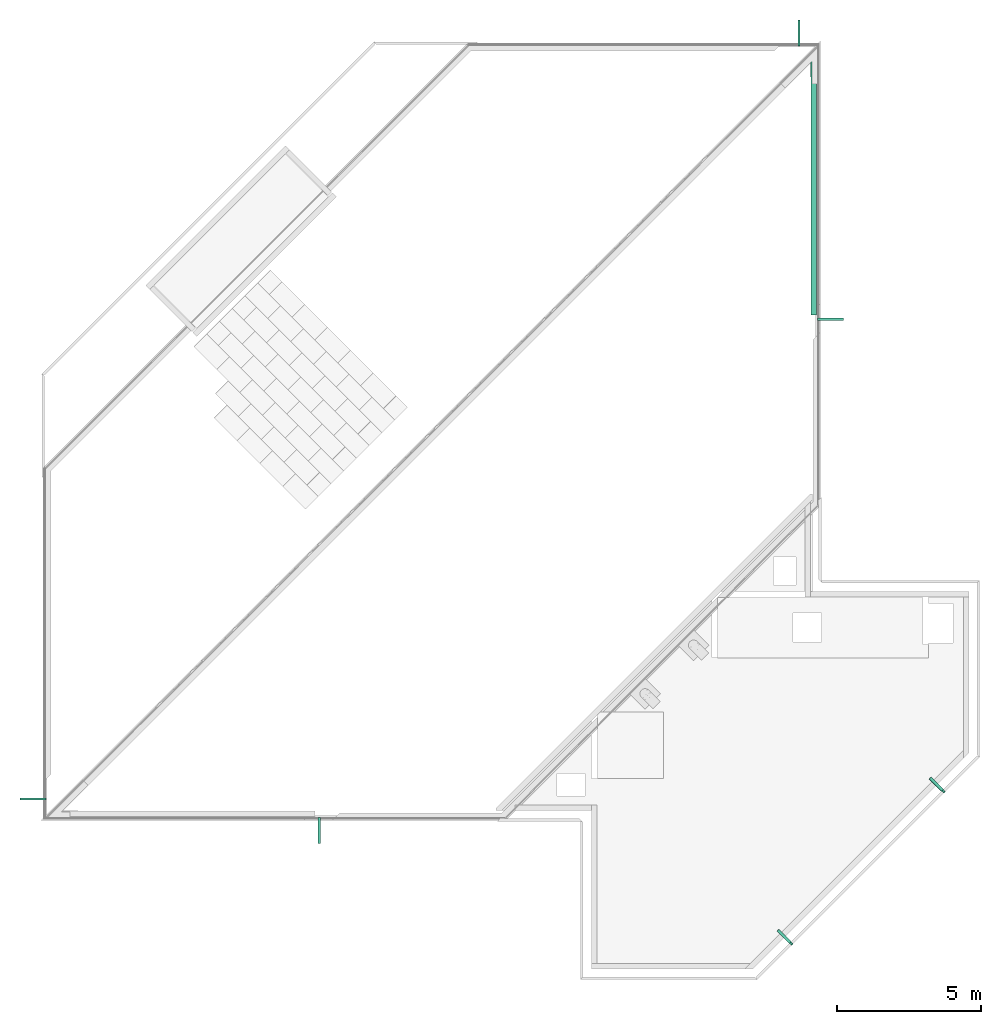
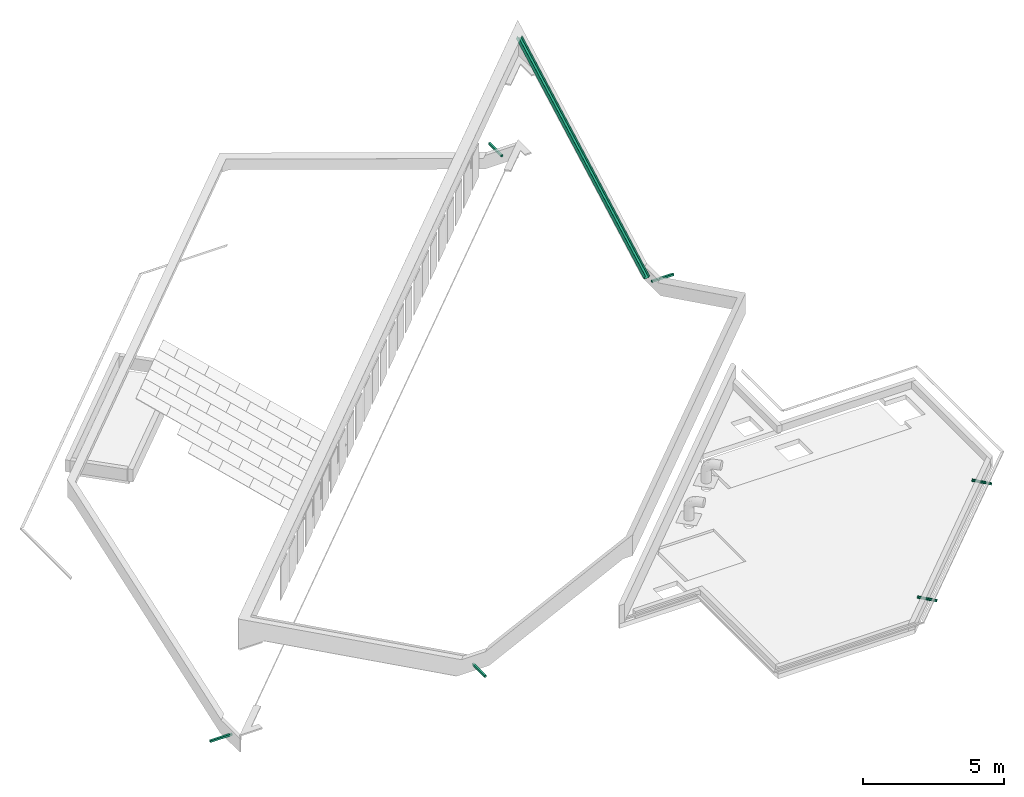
# One storey, part 8 of 8: 6 pipe fittings, 1 pipe segment.
"""IFC4X3_ADD2 building model written with IfcOpenShell, lengths in millimetres."""

import ifcopenshell
import ifcopenshell.guid

model = None  # the IFC model being written
_history = None  # IfcOwnerHistory: only IFC2X3 demands one
_inside = {}  # id of a spatial element -> (the spatial element, [elements in it])
_under = {}  # id of a project, library or spatial element -> (it, [spatial elements below it])
_declared = {}  # id of a project -> (the project, [libraries it declares])
_typed = {}  # id of a type object -> (the type object, [elements of that type])
_made_of = {}  # id of a material, layer set ... -> (it, [elements and type objects made of it])


def new_model(schema):
    """Start an empty IFC model of exactly this schema.

    Asked for "IFC4X3", IfcOpenShell would pick the latest addendum, in which some entities
    have other attributes; the version numbers below select the first issue.
    IFC2X3 requires an IfcOwnerHistory on every rooted entity: one is made here for all.
    """
    global model, _history
    if schema == "IFC4X3":
        model = ifcopenshell.file(schema_version=(4, 3, 0, 0))
    else:
        model = ifcopenshell.file(schema=schema)
    _inside.clear()
    _under.clear()
    _declared.clear()
    _typed.clear()
    _made_of.clear()
    _history = None
    if model.schema == "IFC2X3":
        org = make("IfcOrganization", Name="unknown")
        user = make(
            "IfcPersonAndOrganization",
            ThePerson=make("IfcPerson", FamilyName="unknown"),
            TheOrganization=org,
        )
        app = make(
            "IfcApplication",
            ApplicationDeveloper=org,
            Version="unknown",
            ApplicationFullName="unknown",
            ApplicationIdentifier="unknown",
        )
        _history = make(
            "IfcOwnerHistory",
            OwningUser=user,
            OwningApplication=app,
            ChangeAction="ADDED",
            CreationDate=0,
        )
    return model


def make(cls, **values):
    """One entity of the class cls with the attributes given. An attribute that is None is left unset."""
    return model.create_entity(
        cls, **{name: value for name, value in values.items() if value is not None}
    )


def rooted(cls, **values):
    """An entity with a GlobalId (a new one), such as an element, a storey or a relation."""
    return make(cls, GlobalId=ifcopenshell.guid.new(), OwnerHistory=_history, **values)


def si_unit(unit_type, name, prefix=None):
    """IfcSIUnit, for example si_unit("LENGTHUNIT", "METRE", prefix="MILLI")."""
    return make("IfcSIUnit", UnitType=unit_type, Prefix=prefix, Name=name)


def assignment(units):
    """IfcUnitAssignment: the units of a project."""
    return None if units is None else make("IfcUnitAssignment", Units=units)


def point(xyz):
    """IfcCartesianPoint."""
    return None if xyz is None else make("IfcCartesianPoint", Coordinates=xyz)


def direction(xyz):
    """IfcDirection."""
    return None if xyz is None else make("IfcDirection", DirectionRatios=xyz)


def frame(location, z_axis=None, x_axis=None):
    """IfcAxis2Placement3D, a coordinate frame: its origin and axes. An axis left out is left unset."""
    return make(
        "IfcAxis2Placement3D",
        Location=point(location),
        Axis=direction(z_axis),
        RefDirection=direction(x_axis),
    )


def frame_2d(location, x_axis=None):
    """IfcAxis2Placement2D, a coordinate frame in the plane: its origin and x axis."""
    return make(
        "IfcAxis2Placement2D", Location=point(location), RefDirection=direction(x_axis)
    )


def origin_with_axes():
    """The frame at (0, 0, 0) with the z axis (0, 0, 1) and the x axis (1, 0, 0) written out."""
    return frame((0.0, 0.0, 0.0), z_axis=(0.0, 0.0, 1.0), x_axis=(1.0, 0.0, 0.0))


def origin_2d_with_axis():
    """The frame at (0, 0) in the plane with the x axis (1, 0) written out."""
    return frame_2d((0.0, 0.0), x_axis=(1.0, 0.0))


def place(relative_to, where):
    """IfcLocalPlacement: puts the frame where relative to a parent placement (None: the world)."""
    return make(
        "IfcLocalPlacement", PlacementRelTo=relative_to, RelativePlacement=where
    )


def context(
    kind, dimensions, precision=None, world=None, true_north=None, identifier=None
):
    """IfcGeometricRepresentationContext, for example the 3D "Model" context."""
    return make(
        "IfcGeometricRepresentationContext",
        ContextIdentifier=identifier,
        ContextType=kind,
        CoordinateSpaceDimension=dimensions,
        Precision=precision,
        WorldCoordinateSystem=world,
        TrueNorth=true_north,
    )


def subcontext(parent, identifier, kind, view, scale=None):
    """IfcGeometricRepresentationSubContext, for example "Body" below "Model"."""
    return make(
        "IfcGeometricRepresentationSubContext",
        ContextIdentifier=identifier,
        ContextType=kind,
        ParentContext=parent,
        TargetScale=scale,
        TargetView=view,
    )


def project(units=None, contexts=None):
    """IfcProject with its units and contexts."""
    return rooted(
        "IfcProject",
        Name="project",
        RepresentationContexts=contexts,
        UnitsInContext=assignment(units),
    )


def spatial(cls, under=None, at=None, **own):
    """A site, building, storey or space (cls), placed at a placement, below another one or the project."""
    s = rooted(cls, ObjectPlacement=at, **own)
    if under is not None:
        _under.setdefault(under.id(), (under, []))[1].append(s)
    return s


def polyline(points):
    """IfcPolyline through the points."""
    return make("IfcPolyline", Points=[point(p) for p in points])


def profile(cls, at=None, kind="AREA", **sizes):
    """A parametric profile (cls). Its sizes go by their IFC names, for example OverallWidth=200.0."""
    return make(cls, ProfileType=kind, Position=at, **sizes)


def rectangle(**sizes):
    """IfcRectangleProfileDef."""
    return profile("IfcRectangleProfileDef", **sizes)


def circle(**sizes):
    """IfcCircleProfileDef."""
    return profile("IfcCircleProfileDef", **sizes)


def outline(outer, holes=None, kind="AREA"):
    """IfcArbitraryClosedProfileDef: a profile drawn as a closed curve; with holes, ...WithVoids."""
    if holes is None:
        return make("IfcArbitraryClosedProfileDef", ProfileType=kind, OuterCurve=outer)
    return make(
        "IfcArbitraryProfileDefWithVoids",
        ProfileType=kind,
        OuterCurve=outer,
        InnerCurves=holes,
    )


def extrude(swept, where, along, depth):
    """IfcExtrudedAreaSolid: the profile swept, set in the frame where, extruded along a direction by depth."""
    return make(
        "IfcExtrudedAreaSolid",
        SweptArea=swept,
        Position=where,
        ExtrudedDirection=direction(along),
        Depth=depth,
    )


def shape(context_of_items, identifier, shape_type, items):
    """IfcShapeRepresentation: the items that make up one representation, for example the "Body"."""
    return make(
        "IfcShapeRepresentation",
        ContextOfItems=context_of_items,
        RepresentationIdentifier=identifier,
        RepresentationType=shape_type,
        Items=items,
    )


def source(mapping_origin, context_of_items, identifier, shape_type, items):
    """IfcRepresentationMap: a shape defined once, which mapped items show again and again."""
    return make(
        "IfcRepresentationMap",
        MappingOrigin=mapping_origin,
        MappedRepresentation=shape(context_of_items, identifier, shape_type, items),
    )


def transform(
    local_origin,
    x_axis=None,
    y_axis=None,
    z_axis=None,
    scale=None,
    scale2=None,
    scale3=None,
    uniform=True,
):
    """IfcCartesianTransformationOperator3D, or its non-uniform kind. x_axis, y_axis, z_axis: its Axis1, 2, 3."""
    if uniform:
        return make(
            "IfcCartesianTransformationOperator3D",
            Axis1=direction(x_axis),
            Axis2=direction(y_axis),
            LocalOrigin=point(local_origin),
            Scale=scale,
            Axis3=direction(z_axis),
        )
    return make(
        "IfcCartesianTransformationOperator3DnonUniform",
        Axis1=direction(x_axis),
        Axis2=direction(y_axis),
        LocalOrigin=point(local_origin),
        Scale=scale,
        Axis3=direction(z_axis),
        Scale2=scale2,
        Scale3=scale3,
    )


def mapped(mapping_source, mapping_target):
    """IfcMappedItem: shows the shape of a source again, moved by a transform."""
    return make(
        "IfcMappedItem", MappingSource=mapping_source, MappingTarget=mapping_target
    )


def material(Name=None, Category=None):
    """IfcMaterial."""
    return make("IfcMaterial", Name=Name, Category=Category)


def made_of(thing, what):
    """Note that an element or type object is made of a material, layer set ...; save() writes the relation."""
    if what is not None:
        _made_of.setdefault(what.id(), (what, []))[1].append(thing)
    return thing


def element(
    cls,
    number,
    at=None,
    inside=None,
    cuts=None,
    type_object=None,
    material=None,
    context=None,
    identifier="Body",
    shape_type=None,
    held_by="IfcProductDefinitionShape",
    body=None,
    shapes=None,
    **own,
):
    """One element of the class cls, such as IfcWall. Its Tag is "e" and its number.

    at: its placement. inside: the storey or other place that contains it. cuts: it is an
    opening in that element (IfcRelVoidsElement). A single representation is given by context,
    identifier, shape_type and body (its items); several are given by shapes. held_by: the class
    of the entity that holds the representations. save() writes the other relations.
    """
    e = rooted(cls, Tag="e%d" % number, ObjectPlacement=at, **own)
    if body is not None:
        shapes = [shape(context, identifier, shape_type, body)]
    if shapes is not None:
        e.Representation = make(held_by, Representations=shapes)
    if inside is not None:
        _inside.setdefault(inside.id(), (inside, []))[1].append(e)
    if cuts is not None:
        rooted(
            "IfcRelVoidsElement", RelatingBuildingElement=cuts, RelatedOpeningElement=e
        )
    if type_object is not None:
        _typed.setdefault(type_object.id(), (type_object, []))[1].append(e)
    return made_of(e, material)


def aggregate(whole, parts):
    """IfcRelAggregates: a whole, such as a stair, and the parts it consists of."""
    return rooted("IfcRelAggregates", RelatingObject=whole, RelatedObjects=parts)


def save(model, path):
    """Write the relations noted so far, then the file.

    IfcRelAggregates (storeys below a building ...), IfcRelContainedInSpatialStructure (elements
    in a storey), IfcRelDefinesByType, IfcRelAssociatesMaterial and IfcRelDeclares: one each for
    every whole, place, type object, material and project.
    """
    for whole, parts in _under.values():
        aggregate(whole, parts)
    for where, things in _inside.values():
        rooted(
            "IfcRelContainedInSpatialStructure",
            RelatedElements=things,
            RelatingStructure=where,
        )
    for kind, things in _typed.values():
        rooted("IfcRelDefinesByType", RelatedObjects=things, RelatingType=kind)
    for what, things in _made_of.values():
        rooted("IfcRelAssociatesMaterial", RelatedObjects=things, RelatingMaterial=what)
    for by, libraries in _declared.values():
        rooted("IfcRelDeclares", RelatingContext=by, RelatedDefinitions=libraries)
    model.write(path)


model = new_model("IFC4X3_ADD2")

# Units and contexts
model_context = context("Model", 3, precision=1e-05, world=origin_with_axes(), true_north=direction((0.0, 1.0)))
body_context = subcontext(model_context, "Body", "Model", "MODEL_VIEW")
ifc_project = project(units=[si_unit("LENGTHUNIT", "METRE", prefix="MILLI"), si_unit("AREAUNIT", "SQUARE_METRE"), si_unit("VOLUMEUNIT", "CUBIC_METRE"), si_unit("PLANEANGLEUNIT", "RADIAN"), si_unit("TIMEUNIT", "SECOND"), si_unit("MASSUNIT", "GRAM")], contexts=[model_context])

# Site, building, storey
site_placement = place(None, origin_with_axes())
site = spatial("IfcSite", under=ifc_project, at=site_placement, Name="Site", CompositionType="ELEMENT")
building_placement = place(site_placement, origin_with_axes())
building = spatial("IfcBuilding", under=site, at=building_placement, Name="IFC Building Story")
storey_placement = place(building_placement, frame((0.0, 0.0, 17050.0), z_axis=(0.0, 0.0, 1.0), x_axis=(1.0, 0.0, 0.0)))
storey = spatial("IfcBuildingStorey", under=building, at=storey_placement, Name="050", Elevation=17050.0)

# Pipe segment
ifc_material_1 = material(Name="BB_05.02.34_Aluminium_Dakrand_Sheds")
shared_shape_1 = source(origin_with_axes(), body_context, "Body", "SweptSolid", [
    extrude(outline(polyline([(100.0, -56.99999999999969), (98.0, -56.99999999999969), (98.0, 91.00000000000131), (-98.0, 91.00000000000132), (-98.0, -127.0000000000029), (-99.99999999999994, -127.0000000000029), (-99.99999999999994, 93.00000000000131), (100.0, 93.00000000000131), (100.0, -56.99999999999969)])), frame((0.0, 93.0, -100.0), z_axis=(1.0, 0.0, 0.0), x_axis=(0.0, 0.0, 1.0)), (0.0, 0.0, 1.0), 10300.0),
])
pipe_segment_placement = place(storey_placement, frame((-12291.0083342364, 29696.7291269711, 603.4767695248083), z_axis=(0.999999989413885, 0.000145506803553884, 0.0), x_axis=(-0.0001278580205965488, 0.8787081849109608, 0.4773593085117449)))
element("IfcPipeSegment", 1, at=pipe_segment_placement, inside=storey, material=ifc_material_1, Name="BB_05.02.34#07_Bakgoot aan zijkanten sheddak:XX_Geen", ObjectType="BB_05.02.34#07_Bakgoot aan zijkanten sheddak:XX_Geen", PredefinedType="GUTTER", context=body_context, shape_type="MappedRepresentation", body=[
    mapped(shared_shape_1, transform((0.0, 0.0, 0.0))),
])

# Pipe fittings
ifc_material_2 = material(Name="BB_Metaal_RVS")
shared_shape_2 = source(origin_with_axes(), body_context, "Body", "SweptSolid", [
    extrude(rectangle(XDim=903.9999999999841, YDim=80.0, at=origin_2d_with_axis()), frame((452.0, 0.0, 0.0), z_axis=(0.0, 0.0, 1.0), x_axis=(1.0, 0.0, 0.0)), (0.0, 0.0, 1.0), 80.0),
])
for number, where, z_axis, x_axis, name in (
    (2, (-29550.0, 12263.4000000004, 480.0), (0.0, 0.0, 1.0), (0.0, -1.0, 0.0), "BB_05.08_Regenafvoerbuis, rechthoekig, horizontaal_GLI:80 x 80 mm, RVS spuwer"),
    (3, (-39035.0, 12900.0, 380.0), (0.0, 0.0, 1.0), (-1.0, 0.0, 0.0), "BB_05.08_Regenafvoerbuis, rechthoekig, horizontaal_GLI:80 x 80 mm, RVS spuwer"),
):
    element("IfcPipeFitting", number, at=place(storey_placement, frame(where, z_axis=z_axis, x_axis=x_axis)), inside=storey, material=ifc_material_2, Name=name, ObjectType="BB_05.08_Regenafvoerbuis, rechthoekig, horizontaal_GLI:80 x 80 mm, RVS spuwer", PredefinedType="EXIT", context=body_context, shape_type="MappedRepresentation", body=[
        mapped(shared_shape_2, transform((0.0, 0.0, 0.0))),
    ])
shared_shape_3 = source(origin_with_axes(), body_context, "Body", "SweptSolid", [
    extrude(rectangle(XDim=903.9999999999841, YDim=80.0, at=origin_2d_with_axis()), frame((452.0, 0.0, 0.0), z_axis=(0.0, 0.0, 1.0), x_axis=(1.0, 0.0, 0.0)), (0.0, 0.0, 1.0), 80.0),
])
for number, where, z_axis, x_axis, name in (
    (4, (-12263.4, 29550.0, 480.0), (0.0, 0.0, 1.0), (1.0, 0.0, 0.0), "BB_05.08_Regenafvoerbuis, rechthoekig, horizontaal_GLI:80 x 80 mm, RVS spuwer"),
    (5, (-12900.0, 39035.0, 380.0), (0.0, 0.0, 1.0), (0.0, 1.0, 0.0), "BB_05.08_Regenafvoerbuis, rechthoekig, horizontaal_GLI:80 x 80 mm, RVS spuwer"),
):
    element("IfcPipeFitting", number, at=place(storey_placement, frame(where, z_axis=z_axis, x_axis=x_axis)), inside=storey, material=ifc_material_2, Name=name, ObjectType="BB_05.08_Regenafvoerbuis, rechthoekig, horizontaal_GLI:80 x 80 mm, RVS spuwer", PredefinedType="EXIT", context=body_context, shape_type="MappedRepresentation", body=[
        mapped(shared_shape_3, transform((0.0, 0.0, 0.0))),
    ])
shared_shape_4 = source(origin_with_axes(), body_context, "Body", "SweptSolid", [
    extrude(outline(polyline([(-53.99999999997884, -43.39345501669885), (-53.99999999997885, 52.39345501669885), (54.00000000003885, 52.39345501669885), (54.00000000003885, -43.39345501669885), (35.99999999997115, -43.39345501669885), (35.99999999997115, 34.39345501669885), (-36.00000000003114, 34.39345501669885), (-36.00000000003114, -43.39345501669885), (-53.99999999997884, -43.39345501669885)])), frame((56.59527223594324, 80.2423912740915, 52.39345501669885), z_axis=(0.0, 1.0, 0.0), x_axis=(1.0, 0.0, 0.0)), (0.0, 0.0, 1.0), 1.999999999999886),
    extrude(circle(Radius=54.9999999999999, at=frame_2d((0.0, 0.0), x_axis=(0.0, -1.0))), frame((56.5952722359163, 121.601263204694, 59.3548592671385), z_axis=(0.0, 0.9991330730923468, 0.04163054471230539), x_axis=(1.0, 0.0, 0.0)), (0.0, 0.0, 1.0), 600.0),
    extrude(rectangle(XDim=80.13604281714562, YDim=68.00000000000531, at=frame_2d((0.0, 0.0), x_axis=(0.0, 1.0))), frame((56.5952722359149, 80.04997572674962, 94.11885647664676), z_axis=(0.0, -0.04163054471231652, 0.9991330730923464), x_axis=(1.0, 0.0, 0.0)), (0.0, 0.0, 1.0), 2.0),
    extrude(outline(polyline([(36.00000000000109, -37.96413401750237), (34.0000000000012, -37.96413401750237), (34.0000000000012, 36.96507785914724), (-34.00000000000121, 36.96507785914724), (-34.00000000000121, -37.96413401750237), (-36.00000000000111, -37.96413401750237), (-36.00000000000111, 38.96319017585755), (36.00000000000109, 38.96319017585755), (36.00000000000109, -37.96413401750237)])), frame((56.5952722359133, 1.580467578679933, 54.85395429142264), z_axis=(0.0, 0.9991330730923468, 0.04163054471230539), x_axis=(1.0, 0.0, 0.0)), (0.0, 0.0, 1.0), 120.104121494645),
])
for number, where, z_axis, x_axis, name in (
    (6, (-13161.8267941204, 7797.70133709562, 126.8804671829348), (0.0, 0.0, 1.0), (0.7071067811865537, 0.7071067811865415, 0.0), "Afwerkstuk spuwer 70 x 70 RVS:Type 1"),
    (7, (-7878.73913865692, 13080.7889925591, 126.8804671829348), (0.0, 0.0, 1.0), (0.7071067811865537, 0.7071067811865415, 0.0), "Afwerkstuk spuwer 70 x 70 RVS:Type 1"),
):
    element("IfcPipeFitting", number, at=place(storey_placement, frame(where, z_axis=z_axis, x_axis=x_axis)), inside=storey, Name=name, ObjectType="Afwerkstuk spuwer 70 x 70 RVS:Type 1", PredefinedType="EXIT", context=body_context, shape_type="MappedRepresentation", body=[
        mapped(shared_shape_4, transform((0.0, 0.0, 0.0))),
    ])

save(model, "model.ifc")
